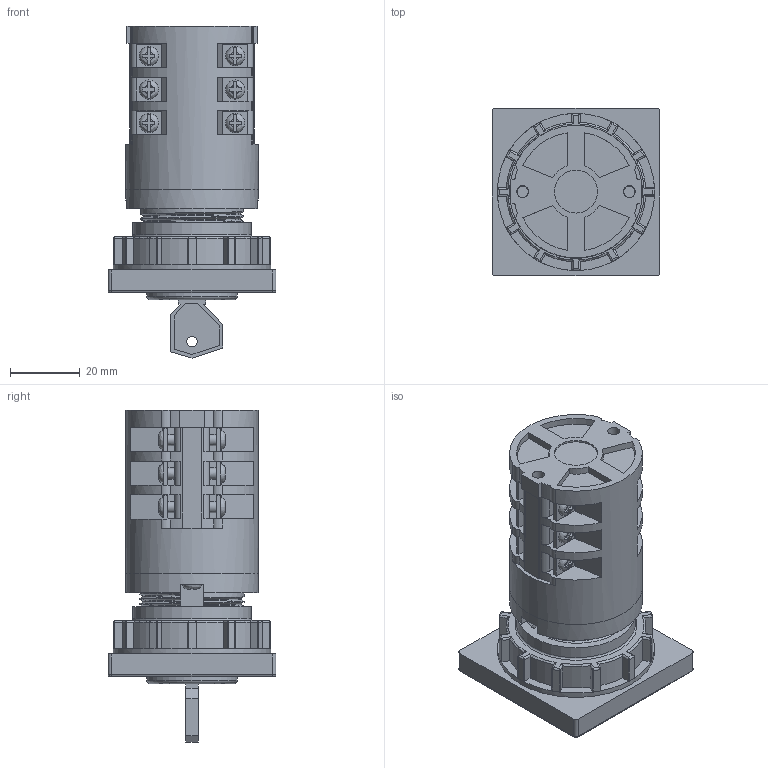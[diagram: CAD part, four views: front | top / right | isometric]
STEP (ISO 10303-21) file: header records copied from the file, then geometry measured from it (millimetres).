
FILE_DESCRIPTION(/* description */ (''),/* implementation_level */ '2;1');
FILE_NAME(/* name */ '4G10-U_wykonanie_S30_3_korpusy.stp',/* time_stamp */ '2021-07-21T08:51:05+02:00',/* author */ (''),/* organization */ (''),/* preprocessor_version */ 'ST-DEVELOPER v18.1',/* originating_system */ 'SIEMENS PLM Software NX 1965',/* authorisation */ '');
FILE_SCHEMA (('AUTOMOTIVE_DESIGN { 1 0 10303 214 3 1 1 1 }'));
Length unit declared in the file: millimetre
Products named in the file (1): 4G10-U_wykonanie_S30_3_korpusy_stp
Bounding box: 48 x 48 x 95.02 mm (x, y, z)
Volume: 86713.8 mm3; surface area: 22356.5 mm2
Topology: 1 solids, 1 shells, 737 faces, 1956 edges, 1242 vertices
Faces by surface type: plane 497, cylinder 173, bspline 51, torus 16
Full cylindrical faces by diameter (mm): 3 x1, 3.2 x14, 3.3 x2, 3.4 x2, 12.3 x1, 15 x1, 26 x1, 34 x1, 38 x2, 45 x1
Entity records: 28332 total; most frequent: CARTESIAN_POINT 10634, ORIENTED_EDGE 3744, DIRECTION 3530, EDGE_CURVE 1872, VERTEX_POINT 1224, AXIS2_PLACEMENT_3D 1212, LINE 1106, VECTOR 1106
